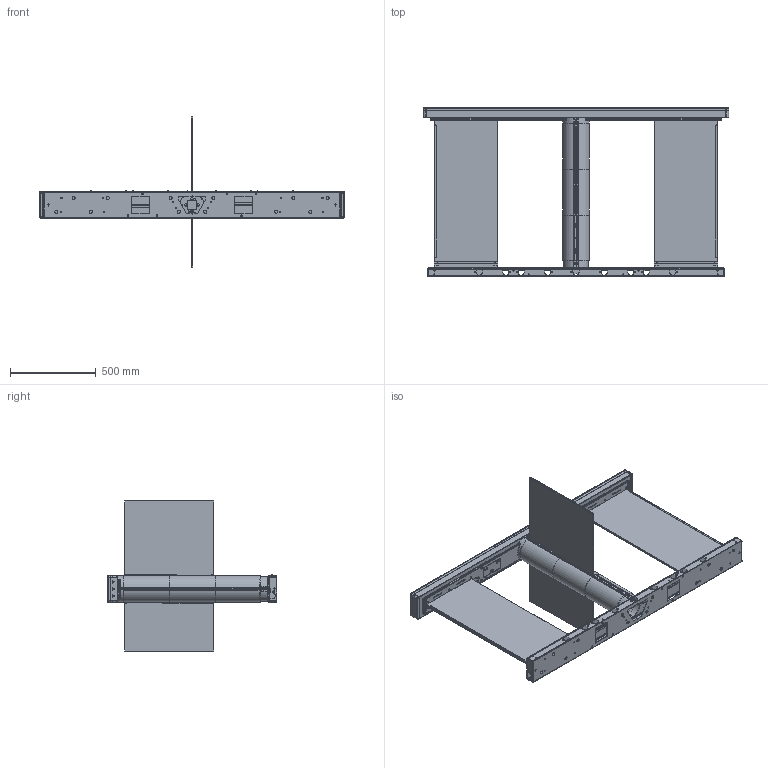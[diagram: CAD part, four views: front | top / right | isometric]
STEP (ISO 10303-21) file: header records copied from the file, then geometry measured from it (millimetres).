
FILE_DESCRIPTION (( 'STEP AP214' ), '1' );
FILE_NAME ('ユニ_センター【上付き：標準、下付き：ワイド】.STEP', '2023-02-27T04:08:45', ( 'cadcl' ), ( 'Hewlett-Packard Company' ), 'SwSTEP 2.0', 'SolidWorks 2022', '' );
FILE_SCHEMA (( 'AUTOMOTIVE_DESIGN' ));
Length unit declared in the file: millimetre
Products named in the file (57): Z03-00734-00; 201-06527-55; 201-06315-57; 201-06315-04; 201-06316-62_施錠; 201-06204-73; 201-06313-33; 201-06515-69_上位アセンブリ用; 201-06203-13; 201-06515-22_メイン閉扉・サブ閉扉; Z03-00854-00; 201-06316-63; 201-06312-02; 201-06315-00_デフォルト; 201-06203-11; 201-06203-15; 201-06515-66; 201-06315-66; 201-06313-87; 201-06316-06; 201-06203-56; Z01-00599-00; 201-06527-41; 201-06527-42; 201-06315-67; 201-06527-43; 201-06316-64; 201-06315-68; 201-06527-47; 201-06315-69; 201-06210-58; 201-06315-31; 201-06515-71; 201-06226-36; 201-06515-68; 201-06515-67; 201-06527-58; 201-06315-32; 201-06316-23; 201-06203-14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
Assembly tree (131 placements, depth 4):
  ユニ_センター【上付き：標準、下付き：ワイド】
    201-06527-47
      201-06527-52
        201-06527-58
        201-06515-84
        201-06527-55
        Z01-00599-00  x10
      201-06316-06
        201-06313-33
      201-06316-62_施錠
        201-06316-63
        Z07-00047-00_かしめ４．１ｍｍ  x4
        301-06197-01_施錠
      201-06316-23  x2
        201-06210-58
      201-06316-25  x2
        201-06203-15
        201-06203-14
      201-06203-13  x2
      201-06203-16  x2
      201-06226-36
    201-06515-22_メイン閉扉・サブ閉扉
      201-06515-65
      201-06313-87
      201-06515-66  x2
        201-06515-67
        201-06527-41
      201-06527-42  x2
        201-06315-57
        201-06527-43
      201-06316-64
      201-06515-68
      201-06515-69_上位アセンブリ用  x2
        201-06515-70
      201-06515-71  x2
      201-06515-73  x2
      201-06515-74  x2
      Z01-00618-00  x18
      Z03-00854-00  x4
    201-06315-00_デフォルト
      201-06312-02
      201-06315-02  x2
        201-06315-66
        201-06204-73
        201-06203-11
      201-06315-04  x2
        201-06315-67
        201-06204-73
        201-06203-11
      201-06315-68  x2
      201-06315-69  x2
      Z03-00734-00  x19
      Z07-00042-00_２．３：２．３  x8
    201-06315-18  x2
      201-06315-19
    201-06315-31  x2
      201-06315-32
    201-06203-55
    201-06203-56
Bounding box: 1780 x 985 x 880 mm (x, y, z)
Volume: 16309678.4 mm3; surface area: 6658915.8 mm2
Topology: 123 solids, 123 shells, 4631 faces, 11684 edges, 7450 vertices
Faces by surface type: plane 2407, cylinder 1833, cone 237, torus 118, bspline 36
Entity records: 86052 total; most frequent: CARTESIAN_POINT 15237, DIRECTION 14705, ORIENTED_EDGE 13830, EDGE_CURVE 6915, AXIS2_PLACEMENT_3D 5212, VERTEX_POINT 4442, VECTOR 4281, LINE 4281
